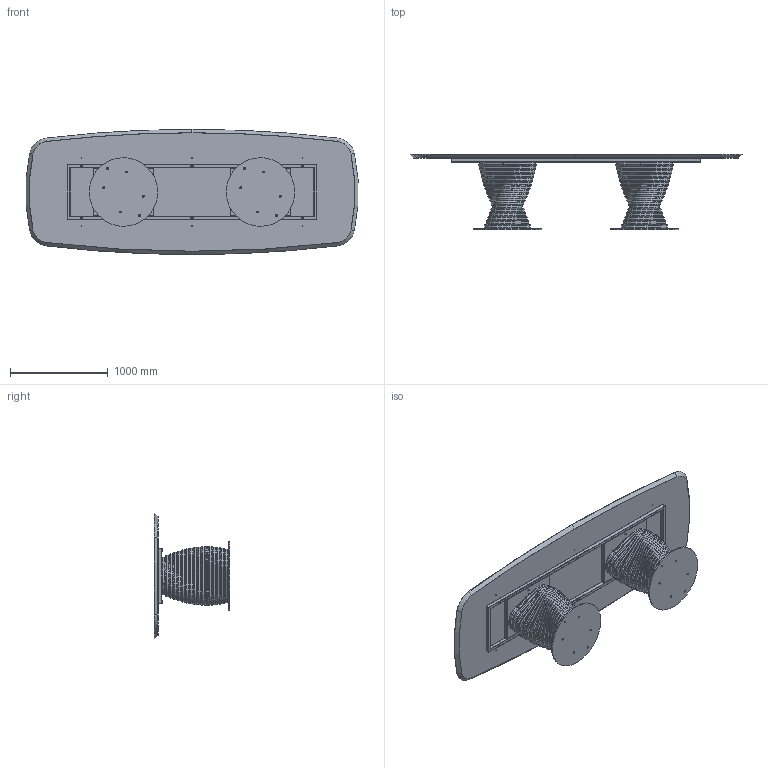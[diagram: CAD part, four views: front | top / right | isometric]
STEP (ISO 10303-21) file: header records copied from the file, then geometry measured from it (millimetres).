
FILE_DESCRIPTION (( 'STEP AP203' ), '1' );
FILE_NAME ('RO48W.STEP', '2024-08-07T13:22:41', ( '' ), ( '' ), 'SwSTEP 2.0', 'SolidWorks 2022', '' );
FILE_SCHEMA (( 'CONFIG_CONTROL_DESIGN' ));
Length unit declared in the file: millimetre
Products named in the file (15): ROB200000-00-PIASTRA BASE_Ø70cm; TTAV03-06-TELAIO UNIVERSALE X TAVOLI 300-340cm; W4XCMXX-00-Piani Sagomati legno_3400 x 1280; ROBX00000-00-ROTOLO BASE 17 ANELLI; M8xXXmm_hex_M8X20mm; ROBX00000MED-00-Anello rotolo MEDIO_Default<A macchina>; ROBX00000INF-00-Anello rotolo INFERIORE_Default<A macchina>; TTAV03_02-06-VASSOIO IRRIGIDIMENTO TELAIO UNIVERSALE RETTANGOLARE; ROBX00000SUP-00-Anello rotolo SUPERIORE_Default<A macchina>; TTAV03_01-06-RING TUBO TELAIO UNIVERSALE X TAVOLI 300-340cm; RO48W; COLLO TELAIO UNIVERSALE TTAV03 CON FERRAMENTA_MTG TOP LEGNO-MARMO-KING; M8xXXmm_M8x55mm; rondella M8_8X24; M8xXXmm_M8x20mm
Assembly tree (67 placements, depth 4):
  RO48W
    ROB200000-00-PIASTRA BASE_Ø70cm  x2
    COLLO TELAIO UNIVERSALE TTAV03 CON FERRAMENTA_MTG TOP LEGNO-MARMO-KING
      TTAV03-06-TELAIO UNIVERSALE X TAVOLI 300-340cm
        TTAV03_01-06-RING TUBO TELAIO UNIVERSALE X TAVOLI 300-340cm
        TTAV03_02-06-VASSOIO IRRIGIDIMENTO TELAIO UNIVERSALE RETTANGOLARE  x2
      rondella M8_8X24  x6
      M8xXXmm_M8x55mm  x6
    ROBX00000-00-ROTOLO BASE 17 ANELLI  x2
      ROBX00000INF-00-Anello rotolo INFERIORE_Default<A macchina>
      ROBX00000MED-00-Anello rotolo MEDIO_Default<A macchina>
      ROBX00000SUP-00-Anello rotolo SUPERIORE_Default<A macchina>
    M8xXXmm_hex_M8X20mm  x12
    rondella M8_8X24  x8
    M8xXXmm_M8x20mm  x8
    W4XCMXX-00-Piani Sagomati legno_3400 x 1280
Bounding box: 3390.78 x 770 x 1280 mm (x, y, z)
Volume: 171309846 mm3; surface area: 22749612.9 mm2
Topology: 182 solids, 182 shells, 3083 faces, 7252 edges, 4469 vertices
Faces by surface type: plane 1230, cylinder 1041, torus 473, cone 331, sphere 8
Entity records: 23639 total; most frequent: CARTESIAN_POINT 5132, DIRECTION 3432, ORIENTED_EDGE 3068, EDGE_CURVE 1534, AXIS2_PLACEMENT_3D 1314, VERTEX_POINT 952, LINE 804, VECTOR 804
